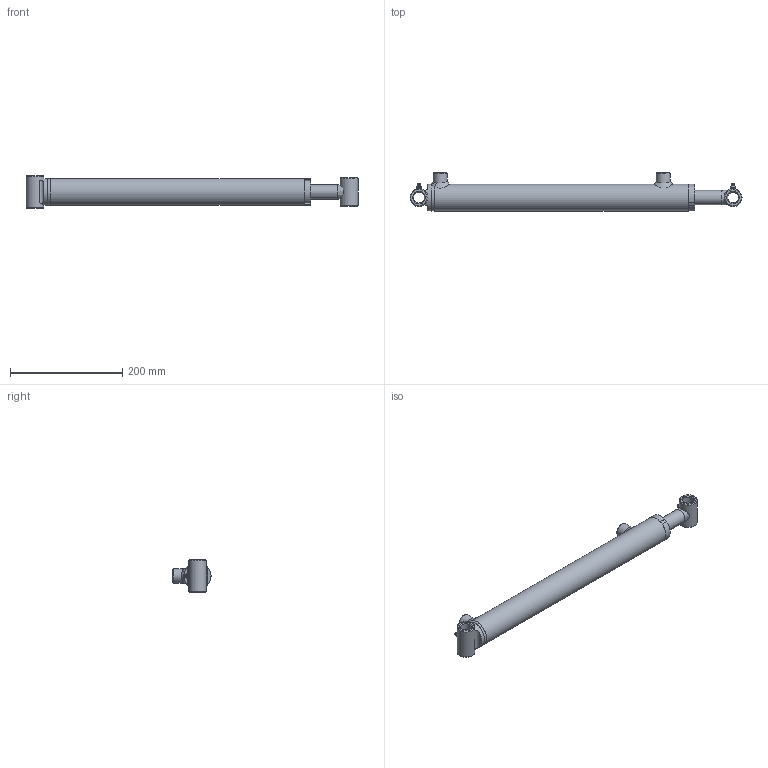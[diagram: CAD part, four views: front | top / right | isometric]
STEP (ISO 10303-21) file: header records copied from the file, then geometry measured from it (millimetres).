
FILE_DESCRIPTION(/* description */ (''),/* implementation_level */ '2;1');
FILE_NAME(/* name */ 'C:\01 - Philip\00 - Philip Rivard\01 - Contracts\Eagle Hydraulic Components\00 - 3D Cylinder\01 - Standard\HBU\HBU15XX\01 - Assembly\HBU1514.stp',/* time_stamp */ '2015-05-06T16:19:50-04:00',/* author */ ('Philip'),/* organization */ (''),/* preprocessor_version */ 'ST-DEVELOPER v16.1',/* originating_system */ 'Autodesk Inventor 2016',/* authorisation */ '');
FILE_SCHEMA (('AUTOMOTIVE_DESIGN { 1 0 10303 214 3 1 1 }'));
Length unit declared in the file: inch
Products named in the file (12): Tube_HBU_Welds; Tube; Straight_Port; ECP-15-HBU; Tube_HBU; Gland; Rod_HBU_Welds; Rod; Bushing; Rod_HBU; Grease Fitting 1-8; Cylinder_Assembly
Assembly tree (13 placements, depth 3):
  Cylinder_Assembly
    Tube_HBU
      Tube_HBU_Welds
      Tube
      Straight_Port  x2
      ECP-15-HBU
    Gland
    Rod_HBU
      Rod_HBU_Welds
      Rod
      Bushing
    Grease Fitting 1-8  x2
Bounding box: 590.55 x 67.62 x 57.2 mm (x, y, z)
Volume: 673276.7 mm3; surface area: 215008.7 mm2
Topology: 12 solids, 12 shells, 206 faces, 458 edges, 279 vertices
Faces by surface type: cone 65, plane 59, cylinder 53, torus 15, bspline 12, sphere 2
Full cylindrical faces by diameter (mm): 4 x2, 5 x1, 7.5 x2, 8 x2, 10 x2, 12.751 x2, 19.05 x2, 19.3 x2, 19.65 x1, 19.9 x1, 22 x1, 25 x4, 25.4 x2, 31.75 x2, 31.8 x1, 35 x1, 37.897 x1, 38.05 x1, 38.1 x1, 40 x1, 42 x2, 43 x1, 47.6 x1, 47.625 x1
Entity records: 6373 total; most frequent: CARTESIAN_POINT 2980, DIRECTION 666, ORIENTED_EDGE 538, AXIS2_PLACEMENT_3D 305, EDGE_LOOP 276, EDGE_CURVE 269, VERTEX_POINT 205, ADVANCED_FACE 166
